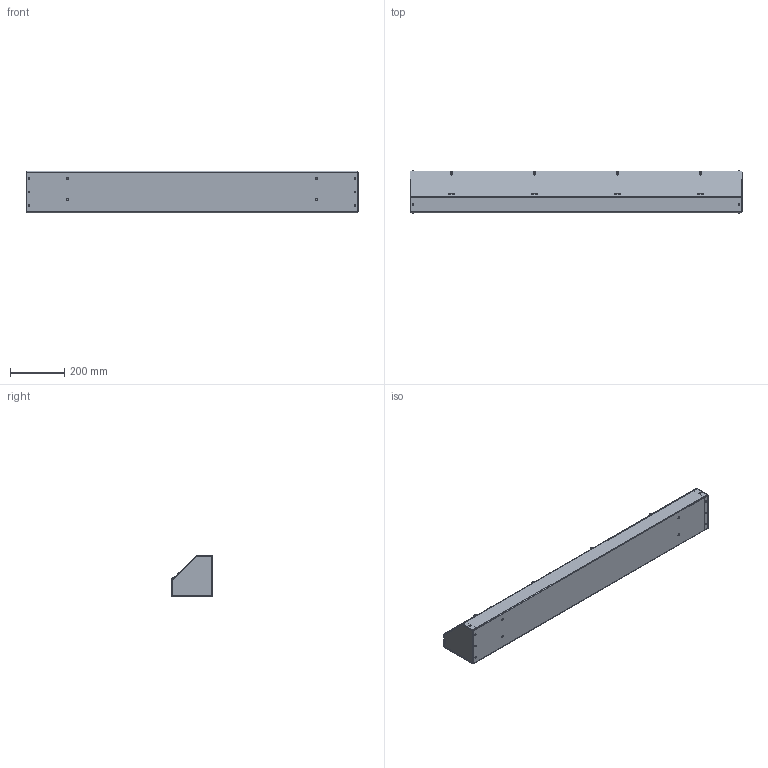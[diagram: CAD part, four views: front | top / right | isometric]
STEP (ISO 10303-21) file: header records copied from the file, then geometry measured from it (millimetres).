
FILE_DESCRIPTION (( 'STEP AP203' ), '1' );
FILE_NAME ('at6648.STEP', '2017-10-03T17:11:19', ( '' ), ( '' ), 'SwSTEP 2.0', 'SolidWorks 2014', '' );
FILE_SCHEMA (( 'CONFIG_CONTROL_DESIGN' ));
Length unit declared in the file: inch
Products named in the file (8): at6648; 89159105; 89159121; 16111002_INSTALLED .144 THICKNESS; 89159149; 89159128; 87791796_PANHTS 0.19-32-type I-F-0.563-S; 87780048
Assembly tree (26 placements, depth 3):
  at6648
    89159149
      89159105
      89159121  x2
      16111002_INSTALLED .144 THICKNESS  x16
    89159128
    87791796_PANHTS 0.19-32-type I-F-0.563-S  x4
    87780048
Bounding box: 1219.2 x 154.23 x 154.23 mm (x, y, z)
Volume: 1061903.5 mm3; surface area: 1540919.7 mm2
Topology: 25 solids, 25 shells, 1346 faces, 3452 edges, 2172 vertices
Faces by surface type: plane 798, cylinder 332, cone 104, bspline 80, torus 32
Entity records: 19375 total; most frequent: CARTESIAN_POINT 3823, ORIENTED_EDGE 2984, DIRECTION 2973, EDGE_CURVE 1492, AXIS2_PLACEMENT_3D 1022, VERTEX_POINT 952, LINE 929, VECTOR 929
